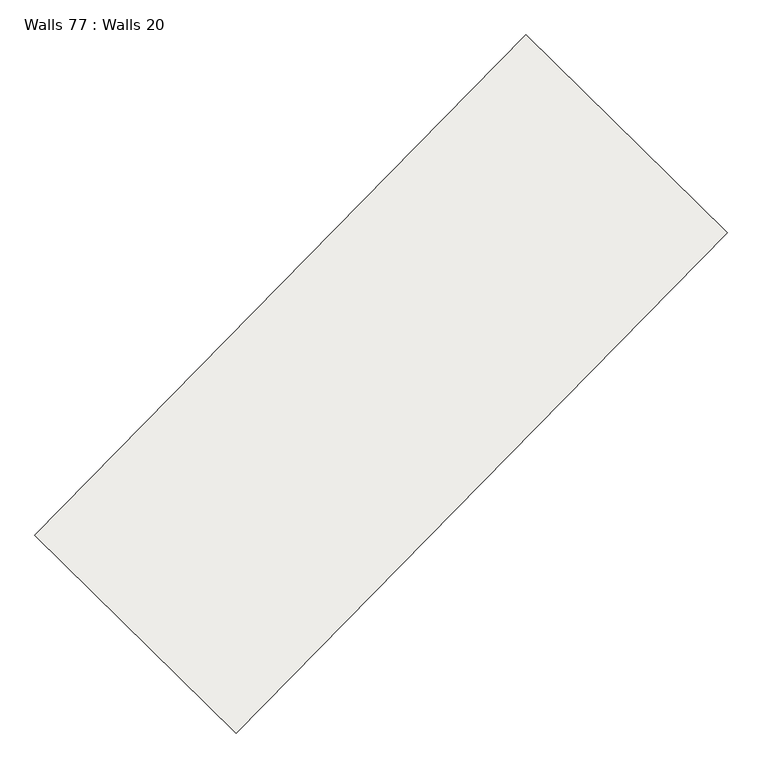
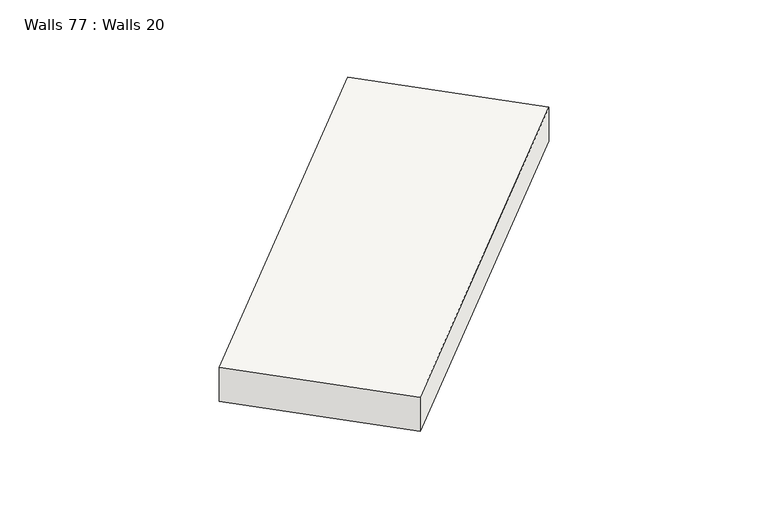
"""IFC4 building model written with IfcOpenShell, lengths in millimetres: slab geometry, Walls 77 : Walls 20."""

from ifc_helpers import new_model, si_unit, frame, origin, place, context, project, spatial, polyline, outline, extrude, source, transform, mapped, element, save


def walls_77_walls_20_d9bec99d(model_context):
    return source(origin(), model_context, "Body", "SweptSolid", [
        extrude(outline(polyline([(-350.0, 0.0), (350.0, 0.0), (270.0, -8700.0000003), (-430.0, -8700.0000003), (-350.0, 0.0)])), frame((-219393.7947956, -382764.1621653, 635260.0), z_axis=(-0.7136987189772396, 0.700452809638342, 0.0), x_axis=(0.0, 0.0, 1.0)), (0.0, 0.0, 1.0), 3500.0),
    ])


if __name__ == "__main__":
    model = new_model("IFC4")
    model_context = context("Model", 3, world=origin())
    ifc_project = project(units=[si_unit("LENGTHUNIT", "METRE", prefix="MILLI")], contexts=[model_context])
    site = spatial("IfcSite", under=ifc_project)
    building = spatial("IfcBuilding", under=site)
    placement = place(None, origin())
    walls_77_walls_20_shape = walls_77_walls_20_d9bec99d(model_context)
    element("IfcSlab", 1, ObjectType="Walls 77 : Walls 20", at=placement, inside=building, context=model_context, shape_type="MappedRepresentation", body=[
        mapped(walls_77_walls_20_shape, transform((0.0, 0.0, 0.0), x_axis=(1.0, 0.0, 0.0), y_axis=(0.0, 1.0, 0.0), z_axis=(0.0, 0.0, 1.0))),
    ])
    save(model, "model.ifc")
